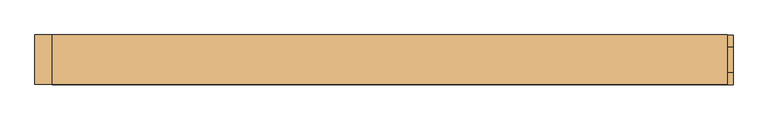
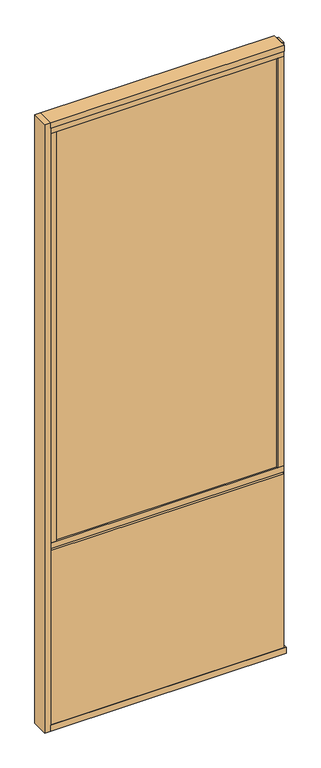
"""IFC4 building model written with IfcOpenShell, lengths in millimetres: door geometry, Mobiliário_Mobiliário de Escritório_Painel Misto Vidro Duplo com Persiana - AET e AEL (Inicial e Final)_Marelli : AET - Temperado."""

from ifc_helpers import new_model, si_unit, frame, origin, origin_with_axes, place, context, project, spatial, polyline, outline, extrude, source, transform, mapped, element, save


def door_198e49c7(model_context):
    return source(origin(), model_context, "Body", "SweptSolid", [
        extrude(outline(polyline([(600.0, 42.5), (600.0, -42.5), (-570.0, -42.5), (-570.0, 42.5), (600.0, 42.5)])), origin_with_axes(), (0.0, 0.0, 1.0), 30.0),
        extrude(outline(polyline([(590.0, 39.5), (590.0, 21.5), (-570.0, 21.5), (-570.0, 39.5), (590.0, 39.5)])), frame((0.0, 0.0, 30.0), z_axis=(0.0, 0.0, 1.0), x_axis=(1.0, 0.0, 0.0)), (0.0, 0.0, 1.0), 916.5),
        extrude(outline(polyline([(590.0, 21.5), (590.0, -21.5), (-570.0, -21.5), (-570.0, 21.5), (590.0, 21.5)])), frame((0.0, 0.0, 913.5), z_axis=(0.0, 0.0, 1.0), x_axis=(1.0, 0.0, 0.0)), (0.0, 0.0, 1.0), 43.0),
        extrude(outline(polyline([(590.0, -39.5), (-570.0, -39.5), (-570.0, -21.5), (590.0, -21.5), (590.0, -39.5)])), frame((0.0, 0.0, 30.0), z_axis=(0.0, 0.0, 1.0), x_axis=(1.0, 0.0, 0.0)), (0.0, 0.0, 1.0), 916.5),
        extrude(outline(polyline([(590.0, 39.5), (590.0, -39.5), (-570.0, -39.5), (-570.0, 39.5), (590.0, 39.5)])), frame((0.0, 0.0, 956.5), z_axis=(0.0, 0.0, 1.0), x_axis=(1.0, 0.0, 0.0)), (0.0, 0.0, 1.0), 30.0),
        extrude(outline(polyline([(590.0, 42.5), (590.0, -42.5), (-570.0, -42.5), (-570.0, 42.5), (590.0, 42.5)])), frame((0.0, 0.0, 3170.0), z_axis=(0.0, 0.0, 1.0), x_axis=(1.0, 0.0, 0.0)), (0.0, 0.0, 1.0), 30.0),
        extrude(outline(polyline([(590.0, 39.5), (590.0, -39.5), (-570.0, -39.5), (-570.0, 39.5), (590.0, 39.5)])), frame((0.0, 0.0, 3140.0), z_axis=(0.0, 0.0, 1.0), x_axis=(1.0, 0.0, 0.0)), (0.0, 0.0, 1.0), 30.0),
        extrude(outline(polyline([(560.0, 13.6216022), (560.0, -11.3783978), (-540.0, -11.3783978), (-540.0, 13.6216022), (560.0, 13.6216022)])), frame((0.0, 0.0, 3107.0), z_axis=(0.0, 0.0, 1.0), x_axis=(1.0, 0.0, 0.0)), (0.0, 0.0, 1.0), 25.0),
        extrude(outline(polyline([(-600.0, -42.5), (-600.0, 42.5), (-570.0, 42.5), (-570.0, -42.5), (-600.0, -42.5)])), origin_with_axes(), (0.0, 0.0, 1.0), 3200.0),
        extrude(outline(polyline([(590.0, -21.5), (590.0, 21.5), (600.0, 21.5), (600.0, -21.5), (590.0, -21.5)])), frame((0.0, 0.0, 30.0), z_axis=(0.0, 0.0, 1.0), x_axis=(1.0, 0.0, 0.0)), (0.0, 0.0, 1.0), 3170.0),
        extrude(outline(polyline([(-540.0, 39.5), (-540.0, -39.5), (-570.0, -39.5), (-570.0, 39.5), (-540.0, 39.5)])), frame((0.0, 0.0, 986.5), z_axis=(0.0, 0.0, 1.0), x_axis=(1.0, 0.0, 0.0)), (0.0, 0.0, 1.0), 2153.5),
        extrude(outline(polyline([(560.0, 39.5), (590.0, 39.5), (590.0, -39.5), (560.0, -39.5), (560.0, 39.5)])), frame((0.0, 0.0, 986.5), z_axis=(0.0, 0.0, 1.0), x_axis=(1.0, 0.0, 0.0)), (0.0, 0.0, 1.0), 2153.5),
        extrude(outline(polyline([(560.0, 31.0), (560.0, 25.0), (-540.0, 25.0), (-540.0, 31.0), (560.0, 31.0)])), frame((0.0, 0.0, 986.5), z_axis=(0.0, 0.0, 1.0), x_axis=(1.0, 0.0, 0.0)), (0.0, 0.0, 1.0), 2153.5),
        extrude(outline(polyline([(560.0, -25.0), (560.0, -31.0), (-540.0, -31.0), (-540.0, -25.0), (560.0, -25.0)])), frame((0.0, 0.0, 986.5), z_axis=(0.0, 0.0, 1.0), x_axis=(1.0, 0.0, 0.0)), (0.0, 0.0, 1.0), 2153.5),
        extrude(outline(polyline([(560.0, 8.0), (560.0, -8.0), (-540.0, -8.0), (-540.0, 8.0), (560.0, 8.0)])), frame((0.0, 0.0, 3091.2), z_axis=(0.0, 0.0, 1.0), x_axis=(1.0, 0.0, 0.0)), (0.0, 0.0, 1.0), 0.8),
        extrude(outline(polyline([(560.0, 8.0), (560.0, -8.0), (-540.0, -8.0), (-540.0, 8.0), (560.0, 8.0)])), frame((0.0, 0.0, 3061.2), z_axis=(0.0, 0.0, 1.0), x_axis=(1.0, 0.0, 0.0)), (0.0, 0.0, 1.0), 0.8),
        extrude(outline(polyline([(560.0, 8.0), (560.0, -8.0), (-540.0, -8.0), (-540.0, 8.0), (560.0, 8.0)])), frame((0.0, 0.0, 3031.2), z_axis=(0.0, 0.0, 1.0), x_axis=(1.0, 0.0, 0.0)), (0.0, 0.0, 1.0), 0.8),
        extrude(outline(polyline([(560.0, 8.0), (560.0, -8.0), (-540.0, -8.0), (-540.0, 8.0), (560.0, 8.0)])), frame((0.0, 0.0, 3001.2), z_axis=(0.0, 0.0, 1.0), x_axis=(1.0, 0.0, 0.0)), (0.0, 0.0, 1.0), 0.8),
        extrude(outline(polyline([(560.0, 8.0), (560.0, -8.0), (-540.0, -8.0), (-540.0, 8.0), (560.0, 8.0)])), frame((0.0, 0.0, 2971.2), z_axis=(0.0, 0.0, 1.0), x_axis=(1.0, 0.0, 0.0)), (0.0, 0.0, 1.0), 0.8),
        extrude(outline(polyline([(560.0, 8.0), (560.0, -8.0), (-540.0, -8.0), (-540.0, 8.0), (560.0, 8.0)])), frame((0.0, 0.0, 2941.2), z_axis=(0.0, 0.0, 1.0), x_axis=(1.0, 0.0, 0.0)), (0.0, 0.0, 1.0), 0.8),
        extrude(outline(polyline([(560.0, 8.0), (560.0, -8.0), (-540.0, -8.0), (-540.0, 8.0), (560.0, 8.0)])), frame((0.0, 0.0, 2911.2), z_axis=(0.0, 0.0, 1.0), x_axis=(1.0, 0.0, 0.0)), (0.0, 0.0, 1.0), 0.8),
        extrude(outline(polyline([(560.0, 8.0), (560.0, -8.0), (-540.0, -8.0), (-540.0, 8.0), (560.0, 8.0)])), frame((0.0, 0.0, 2881.2), z_axis=(0.0, 0.0, 1.0), x_axis=(1.0, 0.0, 0.0)), (0.0, 0.0, 1.0), 0.8),
        extrude(outline(polyline([(560.0, 8.0), (560.0, -8.0), (-540.0, -8.0), (-540.0, 8.0), (560.0, 8.0)])), frame((0.0, 0.0, 2851.2), z_axis=(0.0, 0.0, 1.0), x_axis=(1.0, 0.0, 0.0)), (0.0, 0.0, 1.0), 0.8),
        extrude(outline(polyline([(560.0, 8.0), (560.0, -8.0), (-540.0, -8.0), (-540.0, 8.0), (560.0, 8.0)])), frame((0.0, 0.0, 2821.2), z_axis=(0.0, 0.0, 1.0), x_axis=(1.0, 0.0, 0.0)), (0.0, 0.0, 1.0), 0.8),
        extrude(outline(polyline([(560.0, 8.0), (560.0, -8.0), (-540.0, -8.0), (-540.0, 8.0), (560.0, 8.0)])), frame((0.0, 0.0, 2791.2), z_axis=(0.0, 0.0, 1.0), x_axis=(1.0, 0.0, 0.0)), (0.0, 0.0, 1.0), 0.8),
        extrude(outline(polyline([(560.0, 8.0), (560.0, -8.0), (-540.0, -8.0), (-540.0, 8.0), (560.0, 8.0)])), frame((0.0, 0.0, 2761.2), z_axis=(0.0, 0.0, 1.0), x_axis=(1.0, 0.0, 0.0)), (0.0, 0.0, 1.0), 0.8),
        extrude(outline(polyline([(560.0, 8.0), (560.0, -8.0), (-540.0, -8.0), (-540.0, 8.0), (560.0, 8.0)])), frame((0.0, 0.0, 2731.2), z_axis=(0.0, 0.0, 1.0), x_axis=(1.0, 0.0, 0.0)), (0.0, 0.0, 1.0), 0.8),
        extrude(outline(polyline([(560.0, 8.0), (560.0, -8.0), (-540.0, -8.0), (-540.0, 8.0), (560.0, 8.0)])), frame((0.0, 0.0, 2701.2), z_axis=(0.0, 0.0, 1.0), x_axis=(1.0, 0.0, 0.0)), (0.0, 0.0, 1.0), 0.8),
        extrude(outline(polyline([(560.0, 8.0), (560.0, -8.0), (-540.0, -8.0), (-540.0, 8.0), (560.0, 8.0)])), frame((0.0, 0.0, 2671.2), z_axis=(0.0, 0.0, 1.0), x_axis=(1.0, 0.0, 0.0)), (0.0, 0.0, 1.0), 0.8),
        extrude(outline(polyline([(560.0, 8.0), (560.0, -8.0), (-540.0, -8.0), (-540.0, 8.0), (560.0, 8.0)])), frame((0.0, 0.0, 2641.2), z_axis=(0.0, 0.0, 1.0), x_axis=(1.0, 0.0, 0.0)), (0.0, 0.0, 1.0), 0.8),
        extrude(outline(polyline([(560.0, 8.0), (560.0, -8.0), (-540.0, -8.0), (-540.0, 8.0), (560.0, 8.0)])), frame((0.0, 0.0, 2611.2), z_axis=(0.0, 0.0, 1.0), x_axis=(1.0, 0.0, 0.0)), (0.0, 0.0, 1.0), 0.8),
        extrude(outline(polyline([(560.0, 8.0), (560.0, -8.0), (-540.0, -8.0), (-540.0, 8.0), (560.0, 8.0)])), frame((0.0, 0.0, 2581.2), z_axis=(0.0, 0.0, 1.0), x_axis=(1.0, 0.0, 0.0)), (0.0, 0.0, 1.0), 0.8),
        extrude(outline(polyline([(560.0, 8.0), (560.0, -8.0), (-540.0, -8.0), (-540.0, 8.0), (560.0, 8.0)])), frame((0.0, 0.0, 2551.2), z_axis=(0.0, 0.0, 1.0), x_axis=(1.0, 0.0, 0.0)), (0.0, 0.0, 1.0), 0.8),
        extrude(outline(polyline([(560.0, 8.0), (560.0, -8.0), (-540.0, -8.0), (-540.0, 8.0), (560.0, 8.0)])), frame((0.0, 0.0, 2521.2), z_axis=(0.0, 0.0, 1.0), x_axis=(1.0, 0.0, 0.0)), (0.0, 0.0, 1.0), 0.8),
        extrude(outline(polyline([(560.0, 8.0), (560.0, -8.0), (-540.0, -8.0), (-540.0, 8.0), (560.0, 8.0)])), frame((0.0, 0.0, 2491.2), z_axis=(0.0, 0.0, 1.0), x_axis=(1.0, 0.0, 0.0)), (0.0, 0.0, 1.0), 0.8),
        extrude(outline(polyline([(560.0, 8.0), (560.0, -8.0), (-540.0, -8.0), (-540.0, 8.0), (560.0, 8.0)])), frame((0.0, 0.0, 2461.2), z_axis=(0.0, 0.0, 1.0), x_axis=(1.0, 0.0, 0.0)), (0.0, 0.0, 1.0), 0.8),
        extrude(outline(polyline([(560.0, 8.0), (560.0, -8.0), (-540.0, -8.0), (-540.0, 8.0), (560.0, 8.0)])), frame((0.0, 0.0, 2431.2), z_axis=(0.0, 0.0, 1.0), x_axis=(1.0, 0.0, 0.0)), (0.0, 0.0, 1.0), 0.8),
        extrude(outline(polyline([(560.0, 8.0), (560.0, -8.0), (-540.0, -8.0), (-540.0, 8.0), (560.0, 8.0)])), frame((0.0, 0.0, 2401.2), z_axis=(0.0, 0.0, 1.0), x_axis=(1.0, 0.0, 0.0)), (0.0, 0.0, 1.0), 0.8),
        extrude(outline(polyline([(560.0, 8.0), (560.0, -8.0), (-540.0, -8.0), (-540.0, 8.0), (560.0, 8.0)])), frame((0.0, 0.0, 2371.2), z_axis=(0.0, 0.0, 1.0), x_axis=(1.0, 0.0, 0.0)), (0.0, 0.0, 1.0), 0.8),
        extrude(outline(polyline([(560.0, 8.0), (560.0, -8.0), (-540.0, -8.0), (-540.0, 8.0), (560.0, 8.0)])), frame((0.0, 0.0, 2341.2), z_axis=(0.0, 0.0, 1.0), x_axis=(1.0, 0.0, 0.0)), (0.0, 0.0, 1.0), 0.8),
        extrude(outline(polyline([(560.0, 8.0), (560.0, -8.0), (-540.0, -8.0), (-540.0, 8.0), (560.0, 8.0)])), frame((0.0, 0.0, 2311.2), z_axis=(0.0, 0.0, 1.0), x_axis=(1.0, 0.0, 0.0)), (0.0, 0.0, 1.0), 0.8),
        extrude(outline(polyline([(560.0, 8.0), (560.0, -8.0), (-540.0, -8.0), (-540.0, 8.0), (560.0, 8.0)])), frame((0.0, 0.0, 2281.2), z_axis=(0.0, 0.0, 1.0), x_axis=(1.0, 0.0, 0.0)), (0.0, 0.0, 1.0), 0.8),
        extrude(outline(polyline([(560.0, 8.0), (560.0, -8.0), (-540.0, -8.0), (-540.0, 8.0), (560.0, 8.0)])), frame((0.0, 0.0, 2251.2), z_axis=(0.0, 0.0, 1.0), x_axis=(1.0, 0.0, 0.0)), (0.0, 0.0, 1.0), 0.8),
        extrude(outline(polyline([(560.0, 8.0), (560.0, -8.0), (-540.0, -8.0), (-540.0, 8.0), (560.0, 8.0)])), frame((0.0, 0.0, 2221.2), z_axis=(0.0, 0.0, 1.0), x_axis=(1.0, 0.0, 0.0)), (0.0, 0.0, 1.0), 0.8),
        extrude(outline(polyline([(560.0, 8.0), (560.0, -8.0), (-540.0, -8.0), (-540.0, 8.0), (560.0, 8.0)])), frame((0.0, 0.0, 2191.2), z_axis=(0.0, 0.0, 1.0), x_axis=(1.0, 0.0, 0.0)), (0.0, 0.0, 1.0), 0.8),
        extrude(outline(polyline([(560.0, 8.0), (560.0, -8.0), (-540.0, -8.0), (-540.0, 8.0), (560.0, 8.0)])), frame((0.0, 0.0, 2161.2), z_axis=(0.0, 0.0, 1.0), x_axis=(1.0, 0.0, 0.0)), (0.0, 0.0, 1.0), 0.8),
        extrude(outline(polyline([(560.0, 8.0), (560.0, -8.0), (-540.0, -8.0), (-540.0, 8.0), (560.0, 8.0)])), frame((0.0, 0.0, 2131.2), z_axis=(0.0, 0.0, 1.0), x_axis=(1.0, 0.0, 0.0)), (0.0, 0.0, 1.0), 0.8),
        extrude(outline(polyline([(560.0, 8.0), (560.0, -8.0), (-540.0, -8.0), (-540.0, 8.0), (560.0, 8.0)])), frame((0.0, 0.0, 2101.2), z_axis=(0.0, 0.0, 1.0), x_axis=(1.0, 0.0, 0.0)), (0.0, 0.0, 1.0), 0.8),
        extrude(outline(polyline([(560.0, 8.0), (560.0, -8.0), (-540.0, -8.0), (-540.0, 8.0), (560.0, 8.0)])), frame((0.0, 0.0, 2071.2), z_axis=(0.0, 0.0, 1.0), x_axis=(1.0, 0.0, 0.0)), (0.0, 0.0, 1.0), 0.8),
        extrude(outline(polyline([(560.0, 8.0), (560.0, -8.0), (-540.0, -8.0), (-540.0, 8.0), (560.0, 8.0)])), frame((0.0, 0.0, 2041.2), z_axis=(0.0, 0.0, 1.0), x_axis=(1.0, 0.0, 0.0)), (0.0, 0.0, 1.0), 0.8),
        extrude(outline(polyline([(560.0, 8.0), (560.0, -8.0), (-540.0, -8.0), (-540.0, 8.0), (560.0, 8.0)])), frame((0.0, 0.0, 2011.2), z_axis=(0.0, 0.0, 1.0), x_axis=(1.0, 0.0, 0.0)), (0.0, 0.0, 1.0), 0.8),
        extrude(outline(polyline([(560.0, 8.0), (560.0, -8.0), (-540.0, -8.0), (-540.0, 8.0), (560.0, 8.0)])), frame((0.0, 0.0, 1981.2), z_axis=(0.0, 0.0, 1.0), x_axis=(1.0, 0.0, 0.0)), (0.0, 0.0, 1.0), 0.8),
        extrude(outline(polyline([(560.0, 8.0), (560.0, -8.0), (-540.0, -8.0), (-540.0, 8.0), (560.0, 8.0)])), frame((0.0, 0.0, 1951.2), z_axis=(0.0, 0.0, 1.0), x_axis=(1.0, 0.0, 0.0)), (0.0, 0.0, 1.0), 0.8),
        extrude(outline(polyline([(560.0, 8.0), (560.0, -8.0), (-540.0, -8.0), (-540.0, 8.0), (560.0, 8.0)])), frame((0.0, 0.0, 1921.2), z_axis=(0.0, 0.0, 1.0), x_axis=(1.0, 0.0, 0.0)), (0.0, 0.0, 1.0), 0.8),
        extrude(outline(polyline([(560.0, 8.0), (560.0, -8.0), (-540.0, -8.0), (-540.0, 8.0), (560.0, 8.0)])), frame((0.0, 0.0, 1891.2), z_axis=(0.0, 0.0, 1.0), x_axis=(1.0, 0.0, 0.0)), (0.0, 0.0, 1.0), 0.8),
        extrude(outline(polyline([(560.0, 8.0), (560.0, -8.0), (-540.0, -8.0), (-540.0, 8.0), (560.0, 8.0)])), frame((0.0, 0.0, 1861.2), z_axis=(0.0, 0.0, 1.0), x_axis=(1.0, 0.0, 0.0)), (0.0, 0.0, 1.0), 0.8),
        extrude(outline(polyline([(560.0, 8.0), (560.0, -8.0), (-540.0, -8.0), (-540.0, 8.0), (560.0, 8.0)])), frame((0.0, 0.0, 1831.2), z_axis=(0.0, 0.0, 1.0), x_axis=(1.0, 0.0, 0.0)), (0.0, 0.0, 1.0), 0.8),
        extrude(outline(polyline([(560.0, 8.0), (560.0, -8.0), (-540.0, -8.0), (-540.0, 8.0), (560.0, 8.0)])), frame((0.0, 0.0, 1801.2), z_axis=(0.0, 0.0, 1.0), x_axis=(1.0, 0.0, 0.0)), (0.0, 0.0, 1.0), 0.8),
        extrude(outline(polyline([(560.0, 8.0), (560.0, -8.0), (-540.0, -8.0), (-540.0, 8.0), (560.0, 8.0)])), frame((0.0, 0.0, 1501.2), z_axis=(0.0, 0.0, 1.0), x_axis=(1.0, 0.0, 0.0)), (0.0, 0.0, 1.0), 0.8),
        extrude(outline(polyline([(560.0, 8.0), (560.0, -8.0), (-540.0, -8.0), (-540.0, 8.0), (560.0, 8.0)])), frame((0.0, 0.0, 1531.2), z_axis=(0.0, 0.0, 1.0), x_axis=(1.0, 0.0, 0.0)), (0.0, 0.0, 1.0), 0.8),
        extrude(outline(polyline([(560.0, 8.0), (560.0, -8.0), (-540.0, -8.0), (-540.0, 8.0), (560.0, 8.0)])), frame((0.0, 0.0, 1561.2), z_axis=(0.0, 0.0, 1.0), x_axis=(1.0, 0.0, 0.0)), (0.0, 0.0, 1.0), 0.8),
        extrude(outline(polyline([(560.0, 8.0), (560.0, -8.0), (-540.0, -8.0), (-540.0, 8.0), (560.0, 8.0)])), frame((0.0, 0.0, 1591.2), z_axis=(0.0, 0.0, 1.0), x_axis=(1.0, 0.0, 0.0)), (0.0, 0.0, 1.0), 0.8),
        extrude(outline(polyline([(560.0, 8.0), (560.0, -8.0), (-540.0, -8.0), (-540.0, 8.0), (560.0, 8.0)])), frame((0.0, 0.0, 1621.2), z_axis=(0.0, 0.0, 1.0), x_axis=(1.0, 0.0, 0.0)), (0.0, 0.0, 1.0), 0.8),
        extrude(outline(polyline([(560.0, 8.0), (560.0, -8.0), (-540.0, -8.0), (-540.0, 8.0), (560.0, 8.0)])), frame((0.0, 0.0, 1651.2), z_axis=(0.0, 0.0, 1.0), x_axis=(1.0, 0.0, 0.0)), (0.0, 0.0, 1.0), 0.8),
        extrude(outline(polyline([(560.0, 8.0), (560.0, -8.0), (-540.0, -8.0), (-540.0, 8.0), (560.0, 8.0)])), frame((0.0, 0.0, 1681.2), z_axis=(0.0, 0.0, 1.0), x_axis=(1.0, 0.0, 0.0)), (0.0, 0.0, 1.0), 0.8),
        extrude(outline(polyline([(560.0, 8.0), (560.0, -8.0), (-540.0, -8.0), (-540.0, 8.0), (560.0, 8.0)])), frame((0.0, 0.0, 1711.2), z_axis=(0.0, 0.0, 1.0), x_axis=(1.0, 0.0, 0.0)), (0.0, 0.0, 1.0), 0.8),
        extrude(outline(polyline([(560.0, 8.0), (560.0, -8.0), (-540.0, -8.0), (-540.0, 8.0), (560.0, 8.0)])), frame((0.0, 0.0, 1741.2), z_axis=(0.0, 0.0, 1.0), x_axis=(1.0, 0.0, 0.0)), (0.0, 0.0, 1.0), 0.8),
        extrude(outline(polyline([(560.0, 8.0), (560.0, -8.0), (-540.0, -8.0), (-540.0, 8.0), (560.0, 8.0)])), frame((0.0, 0.0, 1771.2), z_axis=(0.0, 0.0, 1.0), x_axis=(1.0, 0.0, 0.0)), (0.0, 0.0, 1.0), 0.8),
        extrude(outline(polyline([(560.0, 8.0), (560.0, -8.0), (-540.0, -8.0), (-540.0, 8.0), (560.0, 8.0)])), frame((0.0, 0.0, 1471.2), z_axis=(0.0, 0.0, 1.0), x_axis=(1.0, 0.0, 0.0)), (0.0, 0.0, 1.0), 0.8),
        extrude(outline(polyline([(560.0, 8.0), (560.0, -8.0), (-540.0, -8.0), (-540.0, 8.0), (560.0, 8.0)])), frame((0.0, 0.0, 1441.2), z_axis=(0.0, 0.0, 1.0), x_axis=(1.0, 0.0, 0.0)), (0.0, 0.0, 1.0), 0.8),
        extrude(outline(polyline([(560.0, 8.0), (560.0, -8.0), (-540.0, -8.0), (-540.0, 8.0), (560.0, 8.0)])), frame((0.0, 0.0, 1411.2), z_axis=(0.0, 0.0, 1.0), x_axis=(1.0, 0.0, 0.0)), (0.0, 0.0, 1.0), 0.8),
        extrude(outline(polyline([(560.0, 8.0), (560.0, -8.0), (-540.0, -8.0), (-540.0, 8.0), (560.0, 8.0)])), frame((0.0, 0.0, 1381.2), z_axis=(0.0, 0.0, 1.0), x_axis=(1.0, 0.0, 0.0)), (0.0, 0.0, 1.0), 0.8),
        extrude(outline(polyline([(560.0, 8.0), (560.0, -8.0), (-540.0, -8.0), (-540.0, 8.0), (560.0, 8.0)])), frame((0.0, 0.0, 1351.2), z_axis=(0.0, 0.0, 1.0), x_axis=(1.0, 0.0, 0.0)), (0.0, 0.0, 1.0), 0.8),
    ])


if __name__ == "__main__":
    model = new_model("IFC4")
    model_context = context("Model", 3, world=origin())
    ifc_project = project(units=[si_unit("LENGTHUNIT", "METRE", prefix="MILLI")], contexts=[model_context])
    site = spatial("IfcSite", under=ifc_project)
    building = spatial("IfcBuilding", under=site)
    placement = place(None, origin())
    door_shape = door_198e49c7(model_context)
    element("IfcDoor", 1, ObjectType="Mobiliário_Mobiliário de Escritório_Painel Misto Vidro Duplo com Persiana - AET e AEL (Inicial e Final)_Marelli : AET - Temperado", at=placement, inside=building, context=model_context, shape_type="MappedRepresentation", body=[
        mapped(door_shape, transform((0.0, 0.0, 0.0), x_axis=(1.0, 0.0, 0.0), y_axis=(0.0, 1.0, 0.0), z_axis=(0.0, 0.0, 1.0))),
    ])
    save(model, "model.ifc")
